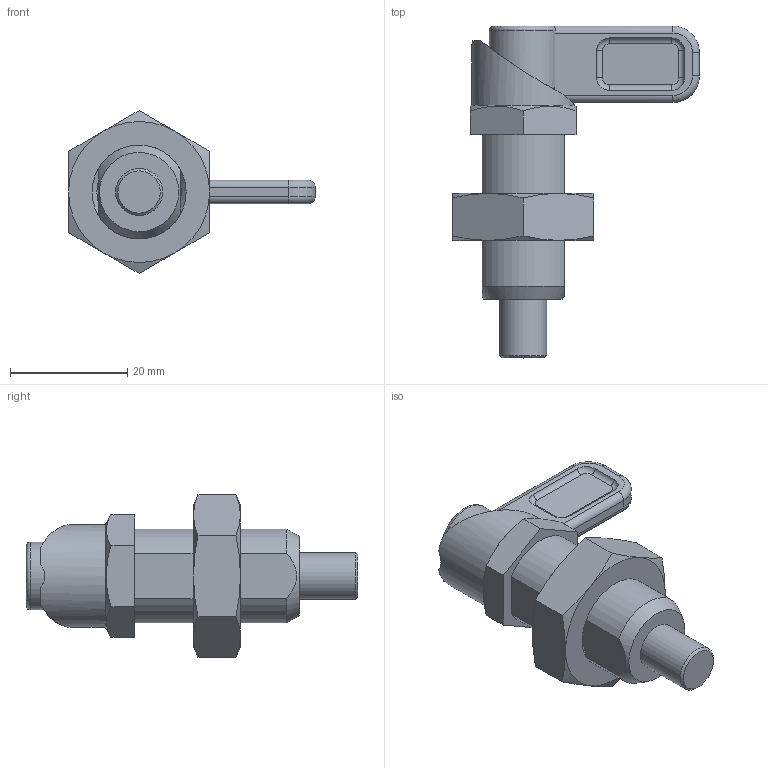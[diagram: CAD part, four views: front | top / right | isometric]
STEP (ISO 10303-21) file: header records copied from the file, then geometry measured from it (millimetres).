
FILE_DESCRIPTION( ( 'STEP AP203' ), '1' );
FILE_NAME( 'C:/Temp/Ganter_Step_05_03_2020/data/3_1/gn_612.8/gn612_8_ak/Indexing plunger GN 612.8-8-M16x1,5-AK (deactivated).stp', '2020-03-12T09:12:37', ( 'License CC BY-ND 4.0' ), ( 'CADENAS' ), ' ', 'PARTsolutions', ' ' );
FILE_SCHEMA( ( 'CONFIG_CONTROL_DESIGN' ) );
Length unit declared in the file: millimetre
Products named in the file (4): Indexing plunger GN 612.8-8-M16x1,5-AK (deactivated); _Indexing plunger GN 612.8-8-M16x1,5-AK (1)_2; _Indexing plunger GN 612.8-8-M16x1,5-AK (1)_1; _Indexing plunger GN 612.8-8-M16x1,5-AK (1)_3
Assembly tree (3 placements, depth 2):
  Indexing plunger GN 612.8-8-M16x1,5-AK (deactivated)
    _Indexing plunger GN 612.8-8-M16x1,5-AK (1)_2
    _Indexing plunger GN 612.8-8-M16x1,5-AK (1)_1
    _Indexing plunger GN 612.8-8-M16x1,5-AK (1)_3
Bounding box: 42 x 56.5 x 27.71 mm (x, y, z)
Volume: 12791.7 mm3; surface area: 7760 mm2
Topology: 3 solids, 3 shells, 97 faces, 221 edges, 139 vertices
Faces by surface type: plane 35, cylinder 32, cone 17, torus 13
Full cylindrical faces by diameter (mm): 8 x4, 9 x2, 11.5 x1, 12.5 x1, 14.376 x1, 17.5 x1
Entity records: 3183 total; most frequent: CARTESIAN_POINT 948, DIRECTION 448, ORIENTED_EDGE 408, EDGE_CURVE 204, AXIS2_PLACEMENT_3D 192, VERTEX_POINT 136, EDGE_LOOP 124, FACE_OUTER_BOUND 106
